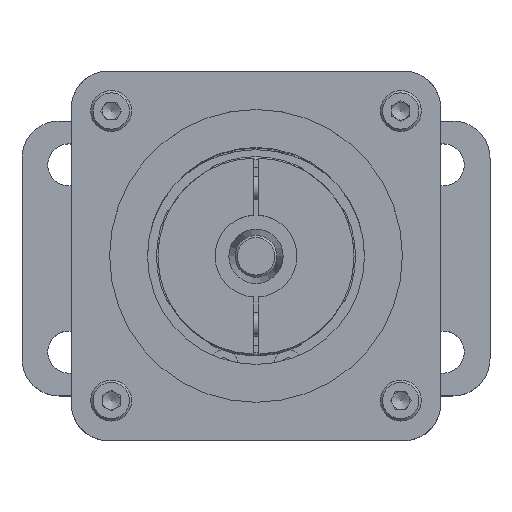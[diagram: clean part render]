
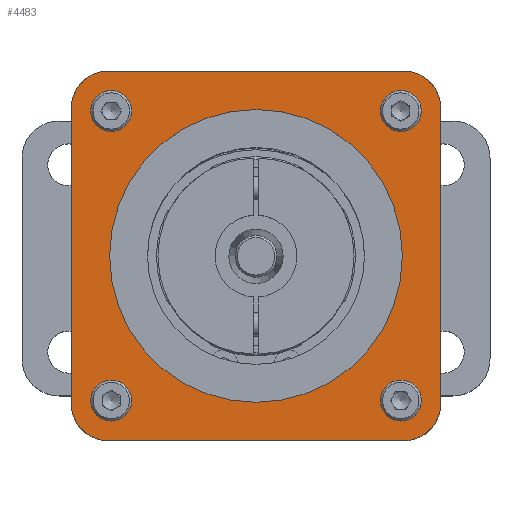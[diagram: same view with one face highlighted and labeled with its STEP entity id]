
A CAD part, top view. The second image highlights one B-rep face of the part: STEP entity #4483.
In plain terms, the highlighted planar face has unit normal (0, 0, 1).
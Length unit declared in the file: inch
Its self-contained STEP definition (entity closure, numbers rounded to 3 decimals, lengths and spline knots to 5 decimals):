
#1138 = EDGE_CURVE ( 'NONE', #4329, #22820, #9251, .T. ) ;
#1360 = ORIENTED_EDGE ( 'NONE', *, *, #22709, .F. ) ;
#1816 = VERTEX_POINT ( 'NONE', #14315 ) ;
#1872 = DIRECTION ( 'NONE',  ( 1., 0., 0. ) ) ;
#1904 = DIRECTION ( 'NONE',  ( 0., 0., 1. ) ) ;
#2203 = DIRECTION ( 'NONE',  ( 1., 0., 0. ) ) ;
#2234 = ORIENTED_EDGE ( 'NONE', *, *, #1138, .T. ) ;
#2338 = DIRECTION ( 'NONE',  ( 0., 0., 1. ) ) ;
#2404 = AXIS2_PLACEMENT_3D ( 'NONE', #21966, #3765, #11870 ) ;
#2412 = CARTESIAN_POINT ( 'NONE',  ( 1.2436, 0.9936, 3.7111 ) ) ;
#2448 = VERTEX_POINT ( 'NONE', #10700 ) ;
#3037 = ORIENTED_EDGE ( 'NONE', *, *, #9211, .F. ) ;
#3265 = ORIENTED_EDGE ( 'NONE', *, *, #25342, .T. ) ;
#3357 = CARTESIAN_POINT ( 'NONE',  ( 0.9936, -1.2436, 3.7111 ) ) ;
#3425 = EDGE_CURVE ( 'NONE', #11617, #6187, #5888, .T. ) ;
#3487 = FACE_BOUND ( 'NONE', #20108, .T. ) ;
#3509 = DIRECTION ( 'NONE',  ( 1., 0., 0. ) ) ;
#3765 = DIRECTION ( 'NONE',  ( 0., 0., 1. ) ) ;
#4100 = EDGE_LOOP ( 'NONE', ( #5584 ) ) ;
#4172 = CARTESIAN_POINT ( 'NONE',  ( -0.9936, 1.2436, 3.7111 ) ) ;
#4251 = ORIENTED_EDGE ( 'NONE', *, *, #3425, .T. ) ;
#4329 = VERTEX_POINT ( 'NONE', #7242 ) ;
#4415 = PLANE ( 'NONE',  #12824 ) ;
#4469 = CARTESIAN_POINT ( 'NONE',  ( 0., 0., 3.7111 ) ) ;
#4483 = ADVANCED_FACE ( 'NONE', ( #19569, #17574, #25699, #7491, #3487, #15580 ), #4415, .T. ) ;
#4565 = CIRCLE ( 'NONE', #8835, 0.07875 ) ;
#5248 = CARTESIAN_POINT ( 'NONE',  ( 0.9936, 1.2436, 3.7111 ) ) ;
#5519 = DIRECTION ( 'NONE',  ( 1., 0., 0. ) ) ;
#5584 = ORIENTED_EDGE ( 'NONE', *, *, #25416, .F. ) ;
#5888 = LINE ( 'NONE', #14374, #9323 ) ;
#6089 = EDGE_CURVE ( 'NONE', #22820, #20245, #15819, .T. ) ;
#6187 = VERTEX_POINT ( 'NONE', #2412 ) ;
#6281 = CARTESIAN_POINT ( 'NONE',  ( -0.9936, -0.9936, 3.7111 ) ) ;
#6370 = VERTEX_POINT ( 'NONE', #12857 ) ;
#6440 = DIRECTION ( 'NONE',  ( 0., 0., 1. ) ) ;
#6447 = EDGE_CURVE ( 'NONE', #26121, #26121, #19228, .T. ) ;
#6699 = DIRECTION ( 'NONE',  ( 0., 1., 0. ) ) ;
#7242 = CARTESIAN_POINT ( 'NONE',  ( -1.2436, 0.9936, 3.7111 ) ) ;
#7484 = EDGE_CURVE ( 'NONE', #17994, #17994, #25271, .T. ) ;
#7491 = FACE_BOUND ( 'NONE', #4100, .T. ) ;
#7656 = CARTESIAN_POINT ( 'NONE',  ( 0.98525, 0., 3.7111 ) ) ;
#8360 = DIRECTION ( 'NONE',  ( 1., 0., 0. ) ) ;
#8723 = VERTEX_POINT ( 'NONE', #9722 ) ;
#8835 = AXIS2_PLACEMENT_3D ( 'NONE', #21584, #1904, #5519 ) ;
#8960 = LINE ( 'NONE', #12922, #19043 ) ;
#9204 = ORIENTED_EDGE ( 'NONE', *, *, #6089, .T. ) ;
#9211 = EDGE_CURVE ( 'NONE', #2448, #2448, #25681, .T. ) ;
#9251 = LINE ( 'NONE', #15345, #19958 ) ;
#9323 = VECTOR ( 'NONE', #22090, 39.37008 ) ;
#9722 = CARTESIAN_POINT ( 'NONE',  ( -0.9936, 1.2436, 3.7111 ) ) ;
#10188 = VERTEX_POINT ( 'NONE', #5248 ) ;
#10541 = CARTESIAN_POINT ( 'NONE',  ( -0.97436, 0.97436, 3.7111 ) ) ;
#10700 = CARTESIAN_POINT ( 'NONE',  ( -0.97436, 1.05311, 3.7111 ) ) ;
#11246 = CARTESIAN_POINT ( 'NONE',  ( 0.97436, -0.97436, 3.7111 ) ) ;
#11617 = VERTEX_POINT ( 'NONE', #20935 ) ;
#11636 = EDGE_CURVE ( 'NONE', #10188, #8723, #18531, .T. ) ;
#11707 = VERTEX_POINT ( 'NONE', #3357 ) ;
#11743 = CARTESIAN_POINT ( 'NONE',  ( 0.9936, 0.9936, 3.7111 ) ) ;
#11870 = DIRECTION ( 'NONE',  ( 1., 0., 0. ) ) ;
#11989 = DIRECTION ( 'NONE',  ( 1., 0., 0. ) ) ;
#12099 = ORIENTED_EDGE ( 'NONE', *, *, #6447, .F. ) ;
#12159 = EDGE_LOOP ( 'NONE', ( #14719, #12965, #2234, #9204, #16633, #25262, #4251, #3265 ) ) ;
#12343 = CARTESIAN_POINT ( 'NONE',  ( 0.9936, -0.9936, 3.7111 ) ) ;
#12824 = AXIS2_PLACEMENT_3D ( 'NONE', #16512, #22095, #11989 ) ;
#12857 = CARTESIAN_POINT ( 'NONE',  ( 1.05311, 0.97436, 3.7111 ) ) ;
#12922 = CARTESIAN_POINT ( 'NONE',  ( -0.9936, -1.2436, 3.7111 ) ) ;
#12965 = ORIENTED_EDGE ( 'NONE', *, *, #24516, .T. ) ;
#13252 = EDGE_CURVE ( 'NONE', #20245, #11707, #8960, .T. ) ;
#13573 = DIRECTION ( 'NONE',  ( 0., 0., 1. ) ) ;
#13747 = CARTESIAN_POINT ( 'NONE',  ( 0.97436, -1.05311, 3.7111 ) ) ;
#14315 = CARTESIAN_POINT ( 'NONE',  ( -1.05311, -0.97436, 3.7111 ) ) ;
#14374 = CARTESIAN_POINT ( 'NONE',  ( 1.2436, 0.9936, 3.7111 ) ) ;
#14468 = CARTESIAN_POINT ( 'NONE',  ( -0.9936, -1.2436, 3.7111 ) ) ;
#14719 = ORIENTED_EDGE ( 'NONE', *, *, #11636, .T. ) ;
#14805 = DIRECTION ( 'NONE',  ( -1., 0., 0. ) ) ;
#15171 = VECTOR ( 'NONE', #14805, 39.37008 ) ;
#15236 = DIRECTION ( 'NONE',  ( 0., 0., 1. ) ) ;
#15345 = CARTESIAN_POINT ( 'NONE',  ( -1.2436, 0.9936, 3.7111 ) ) ;
#15483 = AXIS2_PLACEMENT_3D ( 'NONE', #25945, #13573, #25680 ) ;
#15580 = FACE_OUTER_BOUND ( 'NONE', #12159, .T. ) ;
#15819 = CIRCLE ( 'NONE', #19215, 0.25 ) ;
#16512 = CARTESIAN_POINT ( 'NONE',  ( -1.77594, 1.6875, 3.7111 ) ) ;
#16633 = ORIENTED_EDGE ( 'NONE', *, *, #13252, .T. ) ;
#17116 = AXIS2_PLACEMENT_3D ( 'NONE', #4469, #2338, #2203 ) ;
#17200 = EDGE_LOOP ( 'NONE', ( #3037 ) ) ;
#17574 = FACE_BOUND ( 'NONE', #18462, .T. ) ;
#17590 = CIRCLE ( 'NONE', #15483, 0.07875 ) ;
#17864 = DIRECTION ( 'NONE',  ( 0., 0., 1. ) ) ;
#17994 = VERTEX_POINT ( 'NONE', #13747 ) ;
#18354 = DIRECTION ( 'NONE',  ( 0., 0., 1. ) ) ;
#18437 = DIRECTION ( 'NONE',  ( 0., 0., 1. ) ) ;
#18462 = EDGE_LOOP ( 'NONE', ( #1360 ) ) ;
#18531 = LINE ( 'NONE', #4172, #15171 ) ;
#18969 = CIRCLE ( 'NONE', #2404, 0.25 ) ;
#19043 = VECTOR ( 'NONE', #19410, 39.37008 ) ;
#19215 = AXIS2_PLACEMENT_3D ( 'NONE', #6281, #18354, #1872 ) ;
#19228 = CIRCLE ( 'NONE', #17116, 0.98525 ) ;
#19410 = DIRECTION ( 'NONE',  ( 1., 0., 0. ) ) ;
#19414 = CIRCLE ( 'NONE', #20281, 0.25 ) ;
#19569 = FACE_BOUND ( 'NONE', #24303, .T. ) ;
#19958 = VECTOR ( 'NONE', #24094, 39.37008 ) ;
#20108 = EDGE_LOOP ( 'NONE', ( #12099 ) ) ;
#20245 = VERTEX_POINT ( 'NONE', #14468 ) ;
#20281 = AXIS2_PLACEMENT_3D ( 'NONE', #11743, #17864, #3509 ) ;
#20542 = ORIENTED_EDGE ( 'NONE', *, *, #7484, .F. ) ;
#20935 = CARTESIAN_POINT ( 'NONE',  ( 1.2436, -0.9936, 3.7111 ) ) ;
#21230 = DIRECTION ( 'NONE',  ( 0., -1., 0. ) ) ;
#21542 = CARTESIAN_POINT ( 'NONE',  ( -1.2436, -0.9936, 3.7111 ) ) ;
#21584 = CARTESIAN_POINT ( 'NONE',  ( 0.97436, 0.97436, 3.7111 ) ) ;
#21966 = CARTESIAN_POINT ( 'NONE',  ( -0.9936, 0.9936, 3.7111 ) ) ;
#22090 = DIRECTION ( 'NONE',  ( 0., 1., 0. ) ) ;
#22095 = DIRECTION ( 'NONE',  ( 0., 0., 1. ) ) ;
#22273 = CIRCLE ( 'NONE', #25688, 0.25 ) ;
#22709 = EDGE_CURVE ( 'NONE', #1816, #1816, #17590, .T. ) ;
#22716 = AXIS2_PLACEMENT_3D ( 'NONE', #10541, #6440, #6699 ) ;
#22820 = VERTEX_POINT ( 'NONE', #21542 ) ;
#23188 = EDGE_CURVE ( 'NONE', #11707, #11617, #22273, .T. ) ;
#24094 = DIRECTION ( 'NONE',  ( 0., -1., 0. ) ) ;
#24303 = EDGE_LOOP ( 'NONE', ( #20542 ) ) ;
#24516 = EDGE_CURVE ( 'NONE', #8723, #4329, #18969, .T. ) ;
#25262 = ORIENTED_EDGE ( 'NONE', *, *, #23188, .T. ) ;
#25271 = CIRCLE ( 'NONE', #25682, 0.07875 ) ;
#25342 = EDGE_CURVE ( 'NONE', #6187, #10188, #19414, .T. ) ;
#25416 = EDGE_CURVE ( 'NONE', #6370, #6370, #4565, .T. ) ;
#25680 = DIRECTION ( 'NONE',  ( -1., 0., 0. ) ) ;
#25681 = CIRCLE ( 'NONE', #22716, 0.07875 ) ;
#25682 = AXIS2_PLACEMENT_3D ( 'NONE', #11246, #15236, #21230 ) ;
#25688 = AXIS2_PLACEMENT_3D ( 'NONE', #12343, #18437, #8360 ) ;
#25699 = FACE_BOUND ( 'NONE', #17200, .T. ) ;
#25945 = CARTESIAN_POINT ( 'NONE',  ( -0.97436, -0.97436, 3.7111 ) ) ;
#26121 = VERTEX_POINT ( 'NONE', #7656 ) ;
